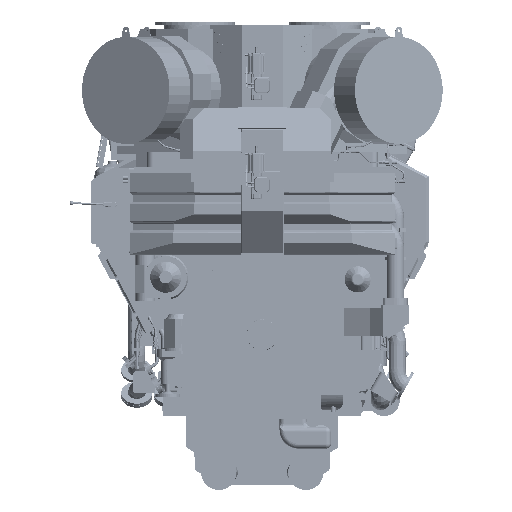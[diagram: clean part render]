
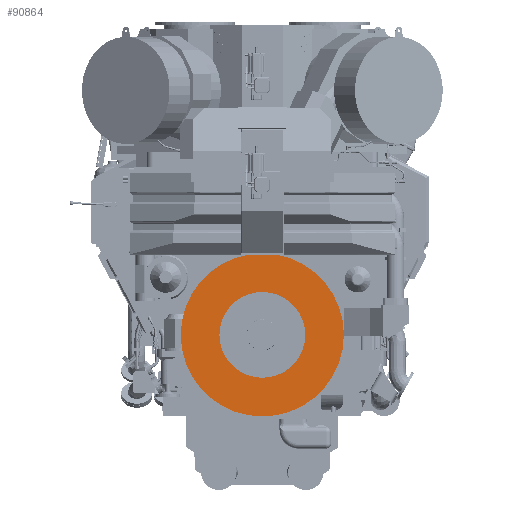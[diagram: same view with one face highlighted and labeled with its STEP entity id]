
A CAD part, left-side view. The second image highlights one B-rep face of the part: STEP entity #90864.
In plain terms, the highlighted planar face has unit normal (-1, 0, 0).
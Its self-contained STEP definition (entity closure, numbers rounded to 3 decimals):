
#31647=PLANE('',#304786);
#90864=ADVANCED_FACE('',(#114491,#114492),#31647,.F.);
#114491=FACE_BOUND('',#121682,.T.);
#114492=FACE_BOUND('',#121683,.T.);
#121682=EDGE_LOOP('',(#144203));
#121683=EDGE_LOOP('',(#144204));
#144203=ORIENTED_EDGE('',*,*,#253748,.T.);
#144204=ORIENTED_EDGE('',*,*,#253746,.F.);
#226237=VERTEX_POINT('',#417577);
#226239=VERTEX_POINT('',#417582);
#253746=EDGE_CURVE('',#226237,#226237,#294741,.T.);
#253748=EDGE_CURVE('',#226239,#226239,#294743,.T.);
#294741=CIRCLE('',#304782,656.);
#294743=CIRCLE('',#304785,345.);
#304782=AXIS2_PLACEMENT_3D('',#417576,#333531,#333532);
#304785=AXIS2_PLACEMENT_3D('',#417581,#333537,#333538);
#304786=AXIS2_PLACEMENT_3D('',#417583,#333539,#333540);
#333531=DIRECTION('',(1.,0.,0.));
#333532=DIRECTION('',(0.,1.,0.));
#333537=DIRECTION('',(1.,0.,0.));
#333538=DIRECTION('',(0.,1.,0.));
#333539=DIRECTION('',(1.,0.,0.));
#333540=DIRECTION('',(0.,0.,-1.));
#417576=CARTESIAN_POINT('',(0.,0.,0.));
#417577=CARTESIAN_POINT('',(0.,656.,0.));
#417581=CARTESIAN_POINT('',(0.,0.,0.));
#417582=CARTESIAN_POINT('',(0.,345.,0.));
#417583=CARTESIAN_POINT('',(0.,0.,0.));
